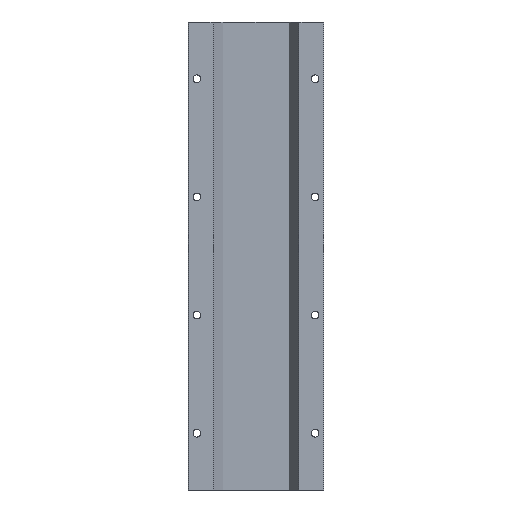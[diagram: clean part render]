
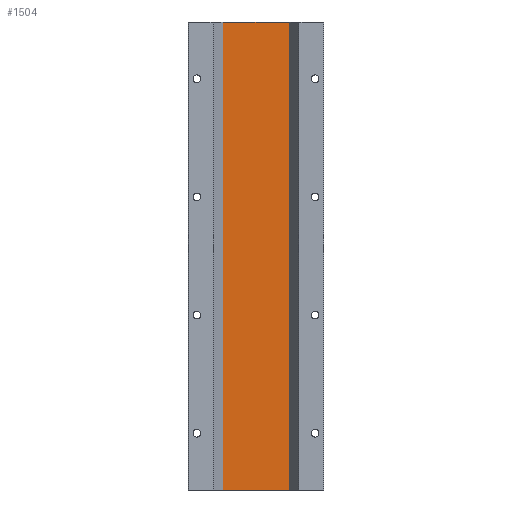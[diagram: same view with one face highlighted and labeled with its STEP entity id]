
A CAD part, front view. The second image highlights one B-rep face of the part: STEP entity #1504.
In plain terms, the highlighted planar face has unit normal (0, -1, 0).
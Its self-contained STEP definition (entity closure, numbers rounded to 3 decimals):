
#1359 = ORIENTED_EDGE ( 'NONE', *, *, #1360, .F. ) ;
#1360 = EDGE_CURVE ( 'NONE', #1361, #1494, #3086, .T. ) ;
#1361 = VERTEX_POINT ( 'NONE', #3082 ) ;
#1362 = ORIENTED_EDGE ( 'NONE', *, *, #1363, .F. ) ;
#1363 = EDGE_CURVE ( 'NONE', #1529, #1361, #3081, .T. ) ;
#1494 = VERTEX_POINT ( 'NONE', #3226 ) ;
#1497 = EDGE_CURVE ( 'NONE', #1498, #1494, #3224, .T. ) ;
#1498 = VERTEX_POINT ( 'NONE', #3220 ) ;
#1504 = ADVANCED_FACE ( 'NONE', ( #3559 ), #3558, .T. ) ;
#1505 = EDGE_LOOP ( 'NONE', ( #1359, #1362, #1530, #1532 ) ) ;
#1529 = VERTEX_POINT ( 'NONE', #3655 ) ;
#1530 = ORIENTED_EDGE ( 'NONE', *, *, #1531, .T. ) ;
#1531 = EDGE_CURVE ( 'NONE', #1529, #1498, #3654, .T. ) ;
#1532 = ORIENTED_EDGE ( 'NONE', *, *, #1497, .T. ) ;
#3081 = LINE ( 'NONE', #3219, #3218 ) ;
#3082 = CARTESIAN_POINT ( 'NONE',  ( -28.2, 13.5, 0. ) ) ;
#3083 = DIRECTION ( 'NONE',  ( 1., 0., 0. ) ) ;
#3084 = VECTOR ( 'NONE', #3083, 1000. ) ;
#3085 = CARTESIAN_POINT ( 'NONE',  ( 28.2, 13.5, 0. ) ) ;
#3086 = LINE ( 'NONE', #3085, #3084 ) ;
#3217 = DIRECTION ( 'NONE',  ( 0., 0., 1. ) ) ;
#3218 = VECTOR ( 'NONE', #3217, 1000. ) ;
#3219 = CARTESIAN_POINT ( 'NONE',  ( -28.2, 13.5, -396. ) ) ;
#3220 = CARTESIAN_POINT ( 'NONE',  ( 28.2, 13.5, -396. ) ) ;
#3221 = DIRECTION ( 'NONE',  ( 0., 0., 1. ) ) ;
#3222 = VECTOR ( 'NONE', #3221, 1000. ) ;
#3223 = CARTESIAN_POINT ( 'NONE',  ( 28.2, 13.5, -396. ) ) ;
#3224 = LINE ( 'NONE', #3223, #3222 ) ;
#3226 = CARTESIAN_POINT ( 'NONE',  ( 28.2, 13.5, 0. ) ) ;
#3554 = DIRECTION ( 'NONE',  ( 0., 0., -1. ) ) ;
#3555 = DIRECTION ( 'NONE',  ( 0., -1., 0. ) ) ;
#3556 = CARTESIAN_POINT ( 'NONE',  ( 28.2, 13.5, -396. ) ) ;
#3557 = AXIS2_PLACEMENT_3D ( 'NONE', #3556, #3555, #3554 ) ;
#3558 = PLANE ( 'NONE',  #3557 ) ;
#3559 = FACE_OUTER_BOUND ( 'NONE', #1505, .T. ) ;
#3651 = DIRECTION ( 'NONE',  ( 1., 0., 0. ) ) ;
#3652 = VECTOR ( 'NONE', #3651, 1000. ) ;
#3653 = CARTESIAN_POINT ( 'NONE',  ( 28.2, 13.5, -396. ) ) ;
#3654 = LINE ( 'NONE', #3653, #3652 ) ;
#3655 = CARTESIAN_POINT ( 'NONE',  ( -28.2, 13.5, -396. ) ) ;
